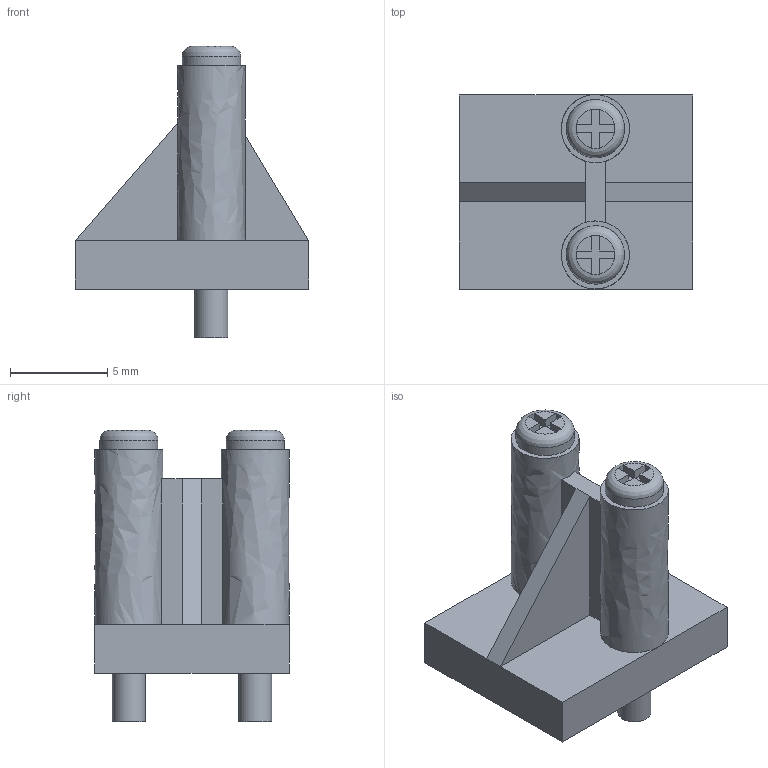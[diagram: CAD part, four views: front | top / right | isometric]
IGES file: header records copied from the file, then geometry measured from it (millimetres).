
Global section: file name: 395.00; native system: Autodesk Inventor 2014; preprocessor: unknown; organization: Pneumax S.p.A.; date: 20160902.104050; units: millimetre
Bounding box: 12 x 10 x 15 mm (x, y, z)
Volume: 560.4 mm3; surface area: 704.4 mm2
Topology: 1 solids, 1 shells, 66 faces, 174 edges, 114 vertices
Faces by surface type: bspline 66
